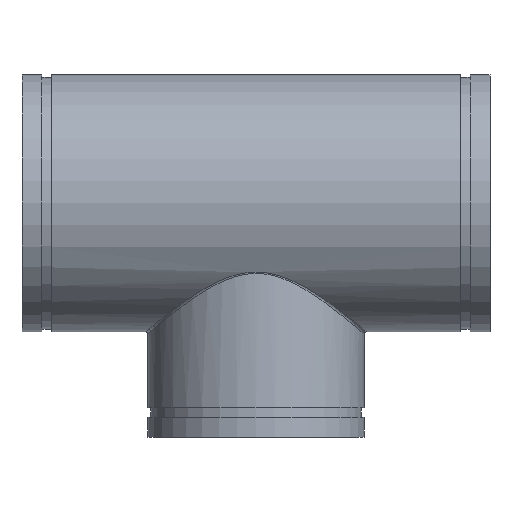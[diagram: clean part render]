
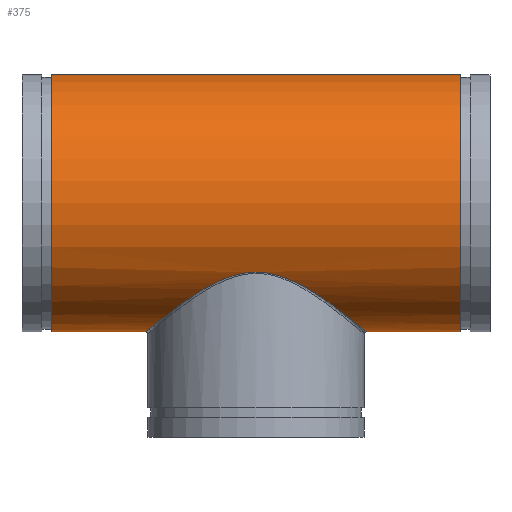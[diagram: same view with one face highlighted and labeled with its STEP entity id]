
A CAD part, top view. The second image highlights one B-rep face of the part: STEP entity #375.
In plain terms, the highlighted cylindrical face has radius 167.64 mm (diameter 335.28 mm), a full revolution.
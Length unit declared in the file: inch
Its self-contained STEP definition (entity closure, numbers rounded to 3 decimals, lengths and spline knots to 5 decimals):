
#54=FACE_BOUND('',#119,.T.);
#65=LINE('',#903,#76);
#76=VECTOR('',#483,6.6);
#87=CYLINDRICAL_SURFACE('',#415,6.6);
#98=FACE_OUTER_BOUND('',#118,.T.);
#118=EDGE_LOOP('',(#266,#267,#268,#269));
#119=EDGE_LOOP('',(#270));
#150=B_SPLINE_CURVE_WITH_KNOTS('',3,(#859,#860,#861,#862,#863,#864,#865,
#866,#867,#868,#869,#870,#871,#872,#873,#874,#875,#876,#877,#878,#879,#880,
#881,#882,#883,#884,#885,#886,#887,#888,#889,#890,#891,#892,#893,#894,#895,
#896,#897,#898),.UNSPECIFIED.,.T.,.F.,(4,1,1,1,1,1,1,1,1,1,1,1,1,1,1,1,
1,1,1,1,1,1,1,1,1,1,1,1,1,1,1,1,1,1,1,1,1,4),(-92.28336,-90.63545,
-88.98753,-85.69169,-82.39586,-79.10003,
-74.70558,-72.50836,-70.31113,-68.11391,
-65.91669,-63.71947,-61.52224,-57.1278,
-54.93057,-52.73335,-50.53613,-48.3389,
-46.14168,-43.94446,-41.74724,-39.55001,
-37.35279,-35.15557,-30.76112,-27.83149,
-26.36668,-24.16945,-21.97223,-20.87362,
-19.77501,-17.57778,-13.18334,-9.8875,
-6.59167,-3.29583,-1.64792,0.),.UNSPECIFIED.);
#154=CIRCLE('',#416,6.6);
#155=CIRCLE('',#417,6.6);
#182=VERTEX_POINT('',#811);
#185=VERTEX_POINT('',#900);
#186=VERTEX_POINT('',#902);
#219=EDGE_CURVE('',#182,#182,#150,.T.);
#220=EDGE_CURVE('',#185,#185,#154,.T.);
#221=EDGE_CURVE('',#185,#186,#65,.T.);
#222=EDGE_CURVE('',#186,#186,#155,.T.);
#266=ORIENTED_EDGE('',*,*,#220,.T.);
#267=ORIENTED_EDGE('',*,*,#221,.T.);
#268=ORIENTED_EDGE('',*,*,#222,.T.);
#269=ORIENTED_EDGE('',*,*,#221,.F.);
#270=ORIENTED_EDGE('',*,*,#219,.F.);
#375=ADVANCED_FACE('',(#98,#54),#87,.T.);
#415=AXIS2_PLACEMENT_3D('',#899,#479,#480);
#416=AXIS2_PLACEMENT_3D('',#901,#481,#482);
#417=AXIS2_PLACEMENT_3D('',#904,#484,#485);
#479=DIRECTION('center_axis',(-1.,0.,0.));
#480=DIRECTION('ref_axis',(0.,-1.,0.));
#481=DIRECTION('center_axis',(1.,0.,0.));
#482=DIRECTION('ref_axis',(0.,-1.,0.));
#483=DIRECTION('',(1.,0.,0.));
#484=DIRECTION('center_axis',(-1.,0.,0.));
#485=DIRECTION('ref_axis',(0.,-1.,0.));
#811=CARTESIAN_POINT('',(0.,-3.54125,-5.56952));
#859=CARTESIAN_POINT('Ctrl Pts',(0.,-3.54125,
-5.56952));
#860=CARTESIAN_POINT('Ctrl Pts',(0.22745,-3.54125,-5.56952));
#861=CARTESIAN_POINT('Ctrl Pts',(0.68197,-3.58417,-5.54251));
#862=CARTESIAN_POINT('Ctrl Pts',(1.55008,-3.81979,-5.38698));
#863=CARTESIAN_POINT('Ctrl Pts',(2.52512,-4.29404,-5.03467));
#864=CARTESIAN_POINT('Ctrl Pts',(3.53788,-4.94533,-4.40663));
#865=CARTESIAN_POINT('Ctrl Pts',(4.50036,-5.65161,-3.48893));
#866=CARTESIAN_POINT('Ctrl Pts',(5.16587,-6.18247,-2.42641));
#867=CARTESIAN_POINT('Ctrl Pts',(5.53597,-6.48487,-1.32676));
#868=CARTESIAN_POINT('Ctrl Pts',(5.6809,-6.60494,-0.44918));
#869=CARTESIAN_POINT('Ctrl Pts',(5.68115,-6.60502,0.4489));
#870=CARTESIAN_POINT('Ctrl Pts',(5.53568,-6.48482,1.32692));
#871=CARTESIAN_POINT('Ctrl Pts',(5.25902,-6.25826,2.15073));
#872=CARTESIAN_POINT('Ctrl Pts',(4.73952,-5.8425,3.1489));
#873=CARTESIAN_POINT('Ctrl Pts',(4.03843,-5.30308,3.9735));
#874=CARTESIAN_POINT('Ctrl Pts',(3.20325,-4.72716,4.61956));
#875=CARTESIAN_POINT('Ctrl Pts',(2.51047,-4.301,5.01589));
#876=CARTESIAN_POINT('Ctrl Pts',(1.74845,-3.91437,5.31979));
#877=CARTESIAN_POINT('Ctrl Pts',(0.90899,-3.61957,5.52076));
#878=CARTESIAN_POINT('Ctrl Pts',(0.00009,-3.50168,5.59402));
#879=CARTESIAN_POINT('Ctrl Pts',(-0.90894,-3.6196,5.52076));
#880=CARTESIAN_POINT('Ctrl Pts',(-1.74841,-3.91434,5.31981));
#881=CARTESIAN_POINT('Ctrl Pts',(-2.5103,-4.30092,5.01594));
#882=CARTESIAN_POINT('Ctrl Pts',(-3.2031,-4.72704,4.61971));
#883=CARTESIAN_POINT('Ctrl Pts',(-4.03818,-5.30294,3.97359));
#884=CARTESIAN_POINT('Ctrl Pts',(-4.79808,-5.88747,3.08036));
#885=CARTESIAN_POINT('Ctrl Pts',(-5.29702,-6.28934,2.06268));
#886=CARTESIAN_POINT('Ctrl Pts',(-5.55181,-6.49813,1.22939));
#887=CARTESIAN_POINT('Ctrl Pts',(-5.68109,-6.60501,0.44905));
#888=CARTESIAN_POINT('Ctrl Pts',(-5.68102,-6.60497,-0.29918));
#889=CARTESIAN_POINT('Ctrl Pts',(-5.60841,-6.54492,-0.88798));
#890=CARTESIAN_POINT('Ctrl Pts',(-5.48976,-6.4471,-1.46399));
#891=CARTESIAN_POINT('Ctrl Pts',(-5.16595,-6.18254,-2.42636));
#892=CARTESIAN_POINT('Ctrl Pts',(-4.50036,-5.65161,-3.48884));
#893=CARTESIAN_POINT('Ctrl Pts',(-3.53812,-4.94549,-4.40648));
#894=CARTESIAN_POINT('Ctrl Pts',(-2.52507,-4.29401,-5.03469));
#895=CARTESIAN_POINT('Ctrl Pts',(-1.55012,-3.8198,-5.38698));
#896=CARTESIAN_POINT('Ctrl Pts',(-0.68197,-3.58417,-5.54251));
#897=CARTESIAN_POINT('Ctrl Pts',(-0.22745,-3.54125,-5.56952));
#898=CARTESIAN_POINT('Ctrl Pts',(0.,-3.54125,
-5.56952));
#899=CARTESIAN_POINT('Origin',(12.,0.,0.));
#900=CARTESIAN_POINT('',(-10.485,6.6,0.));
#901=CARTESIAN_POINT('Origin',(-10.485,0.,0.));
#902=CARTESIAN_POINT('',(10.485,6.6,0.));
#903=CARTESIAN_POINT('',(12.,6.6,0.));
#904=CARTESIAN_POINT('Origin',(10.485,0.,0.));
